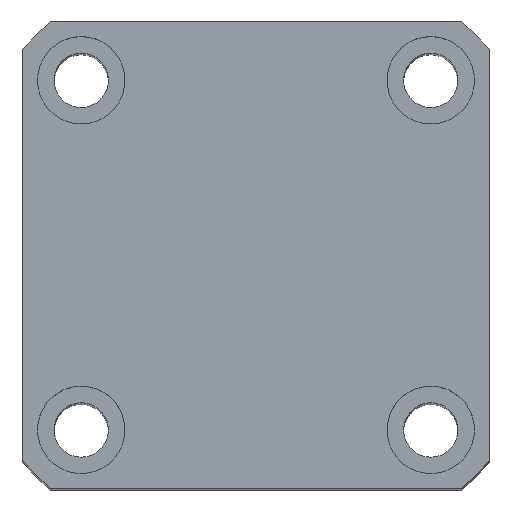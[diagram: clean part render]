
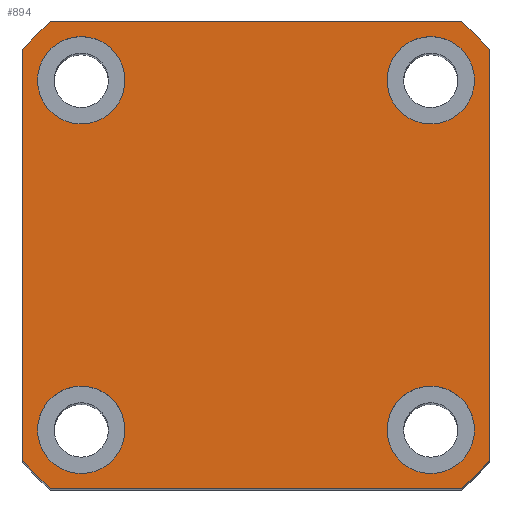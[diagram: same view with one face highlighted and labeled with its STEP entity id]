
A CAD part, top view. The second image highlights one B-rep face of the part: STEP entity #894.
In plain terms, the highlighted planar face has unit normal (0, 0, 1) as drawn and (1, 0, 0) by its records, which use the part's own axes.
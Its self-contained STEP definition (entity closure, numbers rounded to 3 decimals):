
#14 = ORIENTED_EDGE ( 'NONE', *, *, #284, .F. ) ;
#17 = CARTESIAN_POINT ( 'NONE',  ( 110., 0., 0. ) ) ;
#48 = EDGE_CURVE ( 'NONE', #3212, #1912, #4895, .T. ) ;
#99 = EDGE_CURVE ( 'NONE', #4511, #3157, #6365, .T. ) ;
#138 = FACE_BOUND ( 'NONE', #4273, .T. ) ;
#149 = VERTEX_POINT ( 'NONE', #663 ) ;
#153 = EDGE_CURVE ( 'NONE', #3826, #3783, #1074, .T. ) ;
#214 = CARTESIAN_POINT ( 'NONE',  ( 110., 0., 0. ) ) ;
#284 = EDGE_CURVE ( 'NONE', #3853, #1220, #7274, .T. ) ;
#294 = AXIS2_PLACEMENT_3D ( 'NONE', #8020, #8010, #7995 ) ;
#378 = CARTESIAN_POINT ( 'NONE',  ( 110., 18., 18. ) ) ;
#392 = DIRECTION ( 'NONE',  ( 0., 0., -1. ) ) ;
#407 = DIRECTION ( 'NONE',  ( 0., 1., 0. ) ) ;
#415 = DIRECTION ( 'NONE',  ( 1., 0., 0. ) ) ;
#430 = CARTESIAN_POINT ( 'NONE',  ( 110., 24., 24. ) ) ;
#518 = EDGE_LOOP ( 'NONE', ( #8035, #3942 ) ) ;
#537 = CARTESIAN_POINT ( 'NONE',  ( 110., -18., -18. ) ) ;
#663 = CARTESIAN_POINT ( 'NONE',  ( 110., -24., 21.166 ) ) ;
#741 = DIRECTION ( 'NONE',  ( 1., 0., 0. ) ) ;
#829 = CIRCLE ( 'NONE', #5157, 32. ) ;
#889 = AXIS2_PLACEMENT_3D ( 'NONE', #378, #4702, #1017 ) ;
#894 = ADVANCED_FACE ( 'NONE', ( #2899, #5969, #1237, #138, #4293 ), #1322, .T. ) ;
#910 = DIRECTION ( 'NONE',  ( 0., 0., -1. ) ) ;
#944 = DIRECTION ( 'NONE',  ( 1., 0., 0. ) ) ;
#978 = CARTESIAN_POINT ( 'NONE',  ( 110., -18., 18. ) ) ;
#994 = DIRECTION ( 'NONE',  ( 0., 0., -1. ) ) ;
#1017 = DIRECTION ( 'NONE',  ( 0., 0., -1. ) ) ;
#1032 = EDGE_CURVE ( 'NONE', #1220, #3853, #2333, .T. ) ;
#1061 = CARTESIAN_POINT ( 'NONE',  ( 110., 0., 0. ) ) ;
#1074 = CIRCLE ( 'NONE', #2740, 4.5 ) ;
#1079 = ORIENTED_EDGE ( 'NONE', *, *, #99, .F. ) ;
#1162 = VERTEX_POINT ( 'NONE', #6693 ) ;
#1220 = VERTEX_POINT ( 'NONE', #6748 ) ;
#1236 = VECTOR ( 'NONE', #5359, 1000. ) ;
#1237 = FACE_BOUND ( 'NONE', #4448, .T. ) ;
#1247 = ORIENTED_EDGE ( 'NONE', *, *, #1032, .F. ) ;
#1319 = EDGE_CURVE ( 'NONE', #5061, #5386, #1548, .T. ) ;
#1322 = PLANE ( 'NONE',  #5706 ) ;
#1339 = CARTESIAN_POINT ( 'NONE',  ( 110., -18., 18. ) ) ;
#1342 = DIRECTION ( 'NONE',  ( 1., 0., 0. ) ) ;
#1372 = DIRECTION ( 'NONE',  ( 0., 0., -1. ) ) ;
#1398 = DIRECTION ( 'NONE',  ( 0., 0., -1. ) ) ;
#1421 = DIRECTION ( 'NONE',  ( 1., 0., 0. ) ) ;
#1430 = CARTESIAN_POINT ( 'NONE',  ( 110., 18., 18. ) ) ;
#1452 = DIRECTION ( 'NONE',  ( 1., 0., 0. ) ) ;
#1548 = CIRCLE ( 'NONE', #4309, 32. ) ;
#1622 = ORIENTED_EDGE ( 'NONE', *, *, #6619, .T. ) ;
#1643 = VERTEX_POINT ( 'NONE', #2545 ) ;
#1656 = CARTESIAN_POINT ( 'NONE',  ( 110., -18., -22.5 ) ) ;
#1688 = CARTESIAN_POINT ( 'NONE',  ( 110., 21.166, -24. ) ) ;
#1694 = DIRECTION ( 'NONE',  ( 0., 0., -1. ) ) ;
#1862 = CARTESIAN_POINT ( 'NONE',  ( 110., -18., -13.5 ) ) ;
#1871 = EDGE_CURVE ( 'NONE', #5164, #1162, #2892, .T. ) ;
#1908 = EDGE_LOOP ( 'NONE', ( #8057, #1622, #6579, #5093, #3622, #4408, #7504, #2618 ) ) ;
#1912 = VERTEX_POINT ( 'NONE', #6467 ) ;
#1914 = AXIS2_PLACEMENT_3D ( 'NONE', #978, #944, #910 ) ;
#1971 = DIRECTION ( 'NONE',  ( 0., 0., -1. ) ) ;
#2066 = CARTESIAN_POINT ( 'NONE',  ( 110., 21.166, 24. ) ) ;
#2100 = DIRECTION ( 'NONE',  ( 0., 0., -1. ) ) ;
#2114 = DIRECTION ( 'NONE',  ( 1., 0., 0. ) ) ;
#2125 = CIRCLE ( 'NONE', #889, 4.5 ) ;
#2140 = CARTESIAN_POINT ( 'NONE',  ( 110., -18., -18. ) ) ;
#2144 = DIRECTION ( 'NONE',  ( 1., 0., 0. ) ) ;
#2333 = CIRCLE ( 'NONE', #7867, 4.5 ) ;
#2377 = DIRECTION ( 'NONE',  ( 0., 0., -1. ) ) ;
#2477 = CARTESIAN_POINT ( 'NONE',  ( 110., 18., -18. ) ) ;
#2531 = EDGE_CURVE ( 'NONE', #1162, #149, #5363, .T. ) ;
#2545 = CARTESIAN_POINT ( 'NONE',  ( 110., 24., -21.166 ) ) ;
#2618 = ORIENTED_EDGE ( 'NONE', *, *, #1319, .T. ) ;
#2740 = AXIS2_PLACEMENT_3D ( 'NONE', #537, #415, #392 ) ;
#2892 = LINE ( 'NONE', #6348, #8039 ) ;
#2898 = LINE ( 'NONE', #7873, #5968 ) ;
#2899 = FACE_BOUND ( 'NONE', #518, .T. ) ;
#3058 = ORIENTED_EDGE ( 'NONE', *, *, #7286, .F. ) ;
#3077 = ORIENTED_EDGE ( 'NONE', *, *, #6764, .F. ) ;
#3157 = VERTEX_POINT ( 'NONE', #5725 ) ;
#3212 = VERTEX_POINT ( 'NONE', #5204 ) ;
#3220 = CIRCLE ( 'NONE', #4947, 32. ) ;
#3348 = EDGE_LOOP ( 'NONE', ( #1079, #3058 ) ) ;
#3617 = AXIS2_PLACEMENT_3D ( 'NONE', #1339, #5627, #1971 ) ;
#3622 = ORIENTED_EDGE ( 'NONE', *, *, #1871, .T. ) ;
#3689 = EDGE_CURVE ( 'NONE', #3783, #3826, #5538, .T. ) ;
#3777 = CARTESIAN_POINT ( 'NONE',  ( 110., -24., -21.166 ) ) ;
#3783 = VERTEX_POINT ( 'NONE', #1862 ) ;
#3826 = VERTEX_POINT ( 'NONE', #1656 ) ;
#3853 = VERTEX_POINT ( 'NONE', #4038 ) ;
#3942 = ORIENTED_EDGE ( 'NONE', *, *, #3689, .F. ) ;
#4024 = CARTESIAN_POINT ( 'NONE',  ( 110., -24., 24. ) ) ;
#4038 = CARTESIAN_POINT ( 'NONE',  ( 110., 18., -13.5 ) ) ;
#4273 = EDGE_LOOP ( 'NONE', ( #3077, #4960 ) ) ;
#4293 = FACE_OUTER_BOUND ( 'NONE', #1908, .T. ) ;
#4309 = AXIS2_PLACEMENT_3D ( 'NONE', #214, #1452, #994 ) ;
#4408 = ORIENTED_EDGE ( 'NONE', *, *, #2531, .T. ) ;
#4426 = CARTESIAN_POINT ( 'NONE',  ( 110., 0., 0. ) ) ;
#4448 = EDGE_LOOP ( 'NONE', ( #1247, #14 ) ) ;
#4511 = VERTEX_POINT ( 'NONE', #6334 ) ;
#4650 = DIRECTION ( 'NONE',  ( 0., 0., -1. ) ) ;
#4702 = DIRECTION ( 'NONE',  ( 1., 0., 0. ) ) ;
#4795 = AXIS2_PLACEMENT_3D ( 'NONE', #5068, #5864, #6259 ) ;
#4895 = CIRCLE ( 'NONE', #7455, 4.5 ) ;
#4947 = AXIS2_PLACEMENT_3D ( 'NONE', #1061, #5337, #1694 ) ;
#4960 = ORIENTED_EDGE ( 'NONE', *, *, #48, .F. ) ;
#5024 = CARTESIAN_POINT ( 'NONE',  ( 110., 24., 21.166 ) ) ;
#5051 = DIRECTION ( 'NONE',  ( 0., 0., -1. ) ) ;
#5061 = VERTEX_POINT ( 'NONE', #3777 ) ;
#5068 = CARTESIAN_POINT ( 'NONE',  ( 110., 18., -18. ) ) ;
#5093 = ORIENTED_EDGE ( 'NONE', *, *, #7687, .T. ) ;
#5157 = AXIS2_PLACEMENT_3D ( 'NONE', #4426, #741, #5051 ) ;
#5164 = VERTEX_POINT ( 'NONE', #2066 ) ;
#5204 = CARTESIAN_POINT ( 'NONE',  ( 110., 18., 22.5 ) ) ;
#5337 = DIRECTION ( 'NONE',  ( 1., 0., 0. ) ) ;
#5359 = DIRECTION ( 'NONE',  ( 0., 0., 1. ) ) ;
#5363 = CIRCLE ( 'NONE', #294, 32. ) ;
#5386 = VERTEX_POINT ( 'NONE', #6080 ) ;
#5533 = DIRECTION ( 'NONE',  ( 0., -1., 0. ) ) ;
#5538 = CIRCLE ( 'NONE', #6363, 4.5 ) ;
#5541 = EDGE_CURVE ( 'NONE', #149, #5061, #6354, .T. ) ;
#5608 = EDGE_CURVE ( 'NONE', #5386, #5631, #2898, .T. ) ;
#5627 = DIRECTION ( 'NONE',  ( 1., 0., 0. ) ) ;
#5631 = VERTEX_POINT ( 'NONE', #1688 ) ;
#5671 = EDGE_CURVE ( 'NONE', #1643, #6626, #5755, .T. ) ;
#5706 = AXIS2_PLACEMENT_3D ( 'NONE', #17, #1342, #1372 ) ;
#5725 = CARTESIAN_POINT ( 'NONE',  ( 110., -18., 22.5 ) ) ;
#5755 = LINE ( 'NONE', #430, #1236 ) ;
#5864 = DIRECTION ( 'NONE',  ( 1., 0., 0. ) ) ;
#5968 = VECTOR ( 'NONE', #407, 1000. ) ;
#5969 = FACE_BOUND ( 'NONE', #3348, .T. ) ;
#6080 = CARTESIAN_POINT ( 'NONE',  ( 110., -21.166, -24. ) ) ;
#6259 = DIRECTION ( 'NONE',  ( 0., 0., -1. ) ) ;
#6334 = CARTESIAN_POINT ( 'NONE',  ( 110., -18., 13.5 ) ) ;
#6348 = CARTESIAN_POINT ( 'NONE',  ( 110., 24., 24. ) ) ;
#6354 = LINE ( 'NONE', #4024, #7866 ) ;
#6363 = AXIS2_PLACEMENT_3D ( 'NONE', #2140, #2114, #2100 ) ;
#6365 = CIRCLE ( 'NONE', #1914, 4.5 ) ;
#6467 = CARTESIAN_POINT ( 'NONE',  ( 110., 18., 13.5 ) ) ;
#6579 = ORIENTED_EDGE ( 'NONE', *, *, #5671, .T. ) ;
#6619 = EDGE_CURVE ( 'NONE', #5631, #1643, #829, .T. ) ;
#6626 = VERTEX_POINT ( 'NONE', #5024 ) ;
#6693 = CARTESIAN_POINT ( 'NONE',  ( 110., -21.166, 24. ) ) ;
#6748 = CARTESIAN_POINT ( 'NONE',  ( 110., 18., -22.5 ) ) ;
#6764 = EDGE_CURVE ( 'NONE', #1912, #3212, #2125, .T. ) ;
#7274 = CIRCLE ( 'NONE', #4795, 4.5 ) ;
#7286 = EDGE_CURVE ( 'NONE', #3157, #4511, #8026, .T. ) ;
#7455 = AXIS2_PLACEMENT_3D ( 'NONE', #1430, #1421, #1398 ) ;
#7504 = ORIENTED_EDGE ( 'NONE', *, *, #5541, .T. ) ;
#7687 = EDGE_CURVE ( 'NONE', #6626, #5164, #3220, .T. ) ;
#7866 = VECTOR ( 'NONE', #4650, 1000. ) ;
#7867 = AXIS2_PLACEMENT_3D ( 'NONE', #2477, #2144, #2377 ) ;
#7873 = CARTESIAN_POINT ( 'NONE',  ( 110., 24., -24. ) ) ;
#7995 = DIRECTION ( 'NONE',  ( 0., 0., -1. ) ) ;
#8010 = DIRECTION ( 'NONE',  ( 1., 0., 0. ) ) ;
#8020 = CARTESIAN_POINT ( 'NONE',  ( 110., 0., 0. ) ) ;
#8026 = CIRCLE ( 'NONE', #3617, 4.5 ) ;
#8035 = ORIENTED_EDGE ( 'NONE', *, *, #153, .F. ) ;
#8039 = VECTOR ( 'NONE', #5533, 1000. ) ;
#8057 = ORIENTED_EDGE ( 'NONE', *, *, #5608, .T. ) ;
